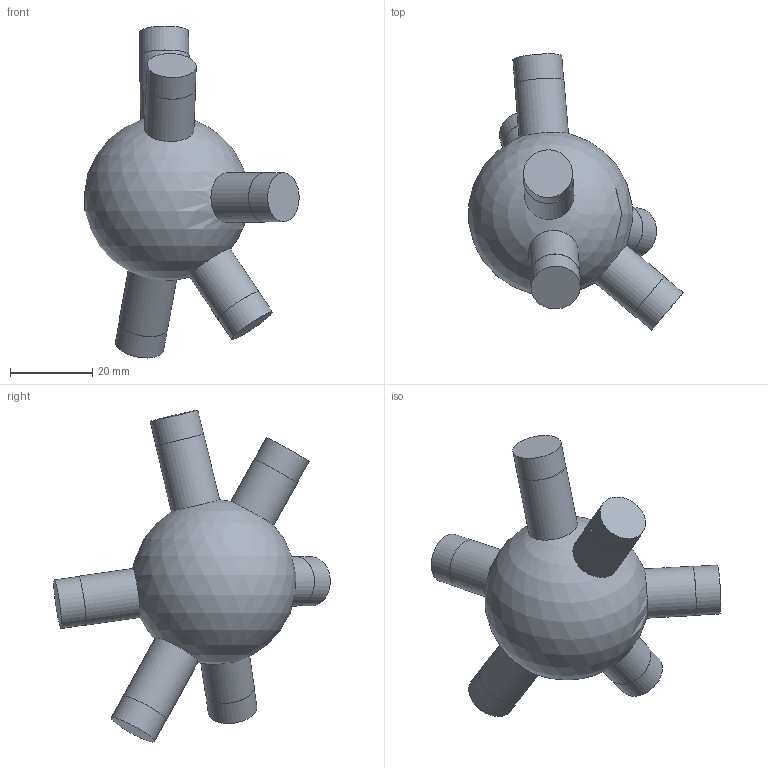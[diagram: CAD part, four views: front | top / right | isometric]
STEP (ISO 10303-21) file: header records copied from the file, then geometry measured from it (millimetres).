
FILE_DESCRIPTION(('Open CASCADE Model'),'2;1');
FILE_NAME('Open CASCADE Shape Model','2026-10-21T12:47:57',('Author'),( 'Open CASCADE'),'Open CASCADE STEP processor 7.9','Open CASCADE 7.9' ,'Unknown');
FILE_SCHEMA(('AUTOMOTIVE_DESIGN { 1 0 10303 214 1 1 1 1 }'));
Length unit declared in the file: millimetre
Products named in the file (1): Open CASCADE STEP translator 7.9 156
Bounding box: 51.99 x 67.1 x 80.57 mm (x, y, z)
Volume: 46500.8 mm3; surface area: 9456.9 mm2
Topology: 1 solids, 1 shells, 25 faces, 42 edges, 28 vertices
Faces by surface type: cylinder 12, plane 12, sphere 1
Full cylindrical faces by diameter (mm): 11.9 x6, 12 x6
Entity records: 1627 total; most frequent: CARTESIAN_POINT 679, DIRECTION 195, ORIENTED_EDGE 82, PCURVE 82, DEFINITIONAL_REPRESENTATION 82, LINE 67, VECTOR 67, AXIS2_PLACEMENT_3D 55
